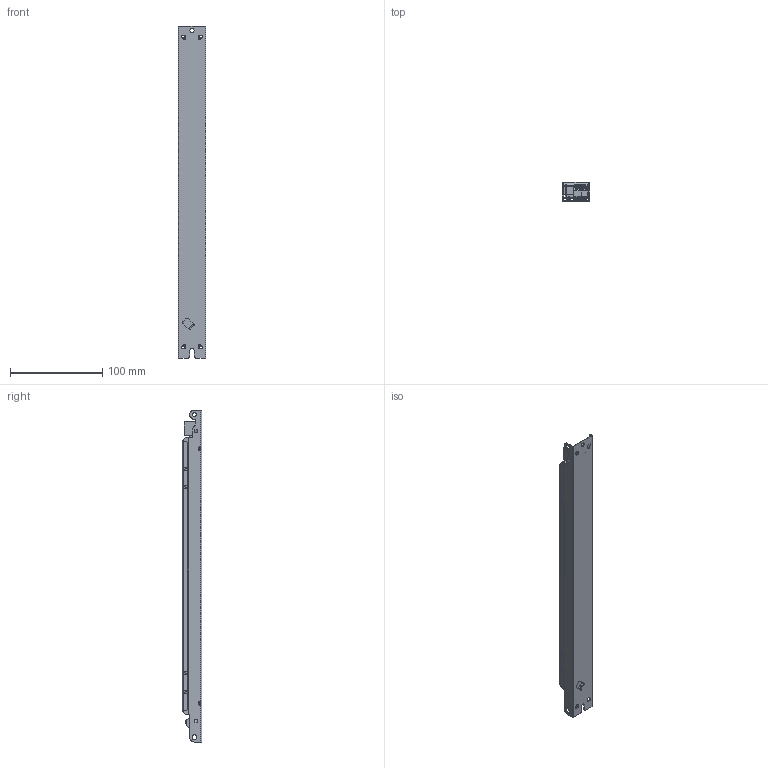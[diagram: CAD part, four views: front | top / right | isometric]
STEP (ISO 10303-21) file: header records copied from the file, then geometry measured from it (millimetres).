
FILE_DESCRIPTION (( 'STEP AP203' ), '1' );
FILE_NAME ('T5755 LL165HE-DA.STEP', '2023-02-20T08:52:00', ( '' ), ( '' ), 'SwSTEP 2.0', 'SolidWorks 2021', '' );
FILE_SCHEMA (( 'CONFIG_CONTROL_DESIGN' ));
Length unit declared in the file: millimetre
Products named in the file (1): T5755 LL165HE-DA
Bounding box: 30 x 21 x 360 mm (x, y, z)
Volume: 36748 mm3; surface area: 96627.1 mm2
Topology: 7 solids, 7 shells, 1136 faces, 2978 edges, 1882 vertices
Faces by surface type: plane 651, cylinder 351, bspline 116, cone 18
Entity records: 40085 total; most frequent: CARTESIAN_POINT 13243, ORIENTED_EDGE 5956, DIRECTION 4975, EDGE_CURVE 2978, VECTOR 1983, LINE 1983, VERTEX_POINT 1882, AXIS2_PLACEMENT_3D 1496
